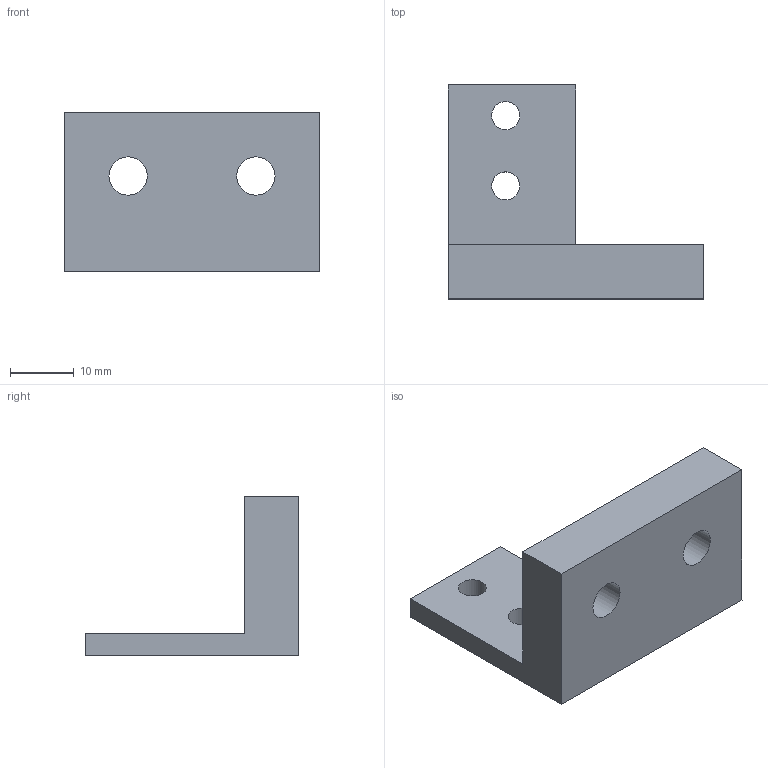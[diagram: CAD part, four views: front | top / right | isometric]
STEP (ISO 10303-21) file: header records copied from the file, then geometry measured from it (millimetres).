
FILE_DESCRIPTION(/* description */ (''),/* implementation_level */ '2;1');
FILE_NAME(/* name */ '/Users/davidflorian/Library/Mobile Documents/com~apple~CloudDocs/Vanderbilt/Papers/OTTO/Supplemental Material/3D-Printable-Components-STEP-Files/Drag-Chain-Connector-1.step',/* time_stamp */ '2020-06-30T23:30:41-05:00',/* author */ (''),/* organization */ (''),/* preprocessor_version */ 'ST-DEVELOPER v18.1',/* originating_system */ 'Autodesk Translation Framework v9.3.0.1241',/* authorisation */ '');
FILE_SCHEMA (('AUTOMOTIVE_DESIGN { 1 0 10303 214 3 1 1 }'));
Length unit declared in the file: millimetre
Products named in the file (1): Drag Chain 4
Bounding box: 40 x 33.5 x 25 mm (x, y, z)
Volume: 9548.3 mm3; surface area: 4553.4 mm2
Topology: 1 solids, 1 shells, 17 faces, 39 edges, 26 vertices
Faces by surface type: plane 11, cylinder 6
Full cylindrical faces by diameter (mm): 4.4 x2, 6 x2, 9.2 x2
Entity records: 534 total; most frequent: DIRECTION 87, CARTESIAN_POINT 83, ORIENTED_EDGE 78, EDGE_CURVE 39, AXIS2_PLACEMENT_3D 30, EDGE_LOOP 27, LINE 27, VECTOR 27
